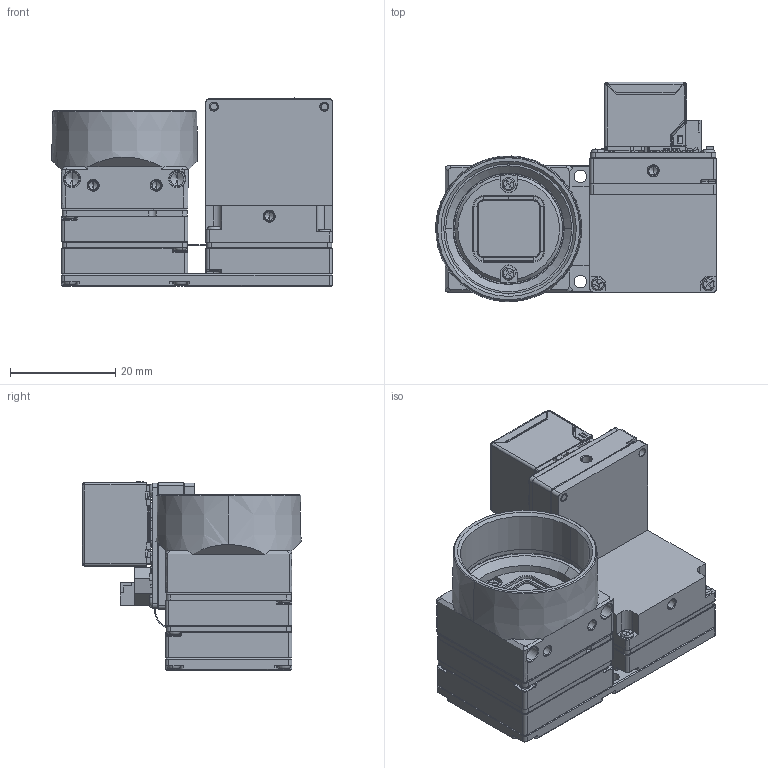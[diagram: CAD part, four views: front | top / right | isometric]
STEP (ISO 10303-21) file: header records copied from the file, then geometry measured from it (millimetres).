
FILE_DESCRIPTION (( 'STEP AP203' ), '1' );
FILE_NAME ('408-379-A_RJ45_180+90.STEP', '2023-03-02T07:40:33', ( '' ), ( '' ), 'SwSTEP 2.0', 'SolidWorks 2021', '' );
FILE_SCHEMA (( 'CONFIG_CONTROL_DESIGN' ));
Products named in the file (1): 408-379-A_RJ45_180+90
Bounding box: 53.31 x 41.65 x 35.75 mm (x, y, z)
Volume: 16355.1 mm3; surface area: 28050.3 mm2
Topology: 67 solids, 67 shells, 5779 faces, 14916 edges, 9189 vertices
Faces by surface type: plane 3235, cylinder 1465, cone 471, bspline 319, torus 199, sphere 90
Entity records: 179651 total; most frequent: CARTESIAN_POINT 40393, ORIENTED_EDGE 29424, DIRECTION 28318, EDGE_CURVE 14712, LINE 10260, VECTOR 10260, VERTEX_POINT 9179, AXIS2_PLACEMENT_3D 9029
